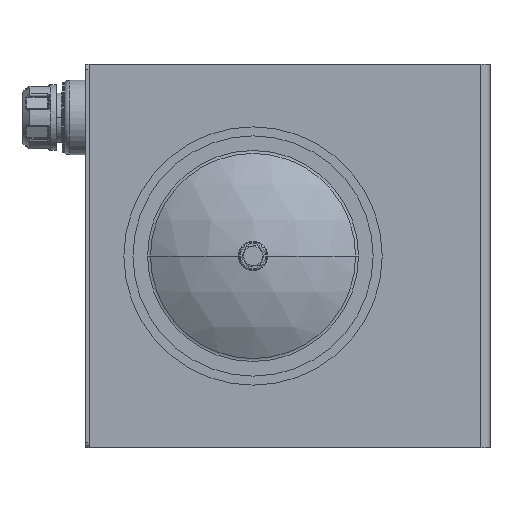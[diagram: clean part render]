
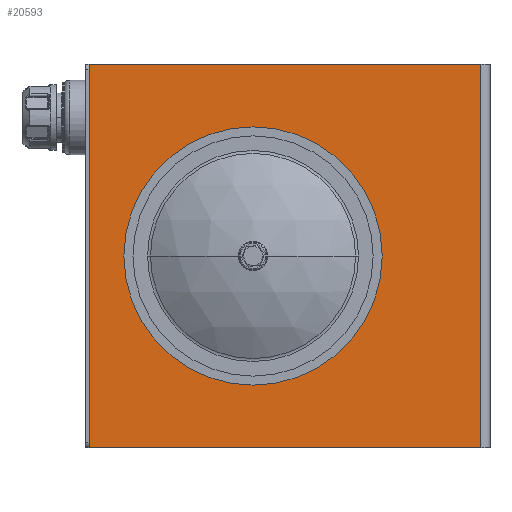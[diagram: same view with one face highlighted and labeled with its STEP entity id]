
A CAD part, left-side view. The second image highlights one B-rep face of the part: STEP entity #20593.
In plain terms, the highlighted planar face has unit normal (-1, 0, 0).
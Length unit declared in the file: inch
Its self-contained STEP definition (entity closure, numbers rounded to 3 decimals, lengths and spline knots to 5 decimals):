
#297 = ORIENTED_EDGE ( 'NONE', *, *, #3054, .T. ) ;
#559 = VECTOR ( 'NONE', #6290, 39.37008 ) ;
#743 = CARTESIAN_POINT ( 'NONE',  ( -14.32122, -14.85503, -7.03273 ) ) ;
#747 = EDGE_CURVE ( 'NONE', #22684, #8864, #5743, .T. ) ;
#887 = CARTESIAN_POINT ( 'NONE',  ( -14.32122, 3.52817, -7.03273 ) ) ;
#1481 = DIRECTION ( 'NONE',  ( 1., 0., 0. ) ) ;
#1507 = ORIENTED_EDGE ( 'NONE', *, *, #14768, .T. ) ;
#2237 = VERTEX_POINT ( 'NONE', #6201 ) ;
#2655 = CARTESIAN_POINT ( 'NONE',  ( -14.32122, -4.16183, 1.96727 ) ) ;
#2923 = CIRCLE ( 'NONE', #4009, 5. ) ;
#3054 = EDGE_CURVE ( 'NONE', #8864, #9242, #17325, .T. ) ;
#3501 = VERTEX_POINT ( 'NONE', #9970 ) ;
#3803 = EDGE_CURVE ( 'NONE', #3501, #2237, #4512, .T. ) ;
#4009 = AXIS2_PLACEMENT_3D ( 'NONE', #2655, #16027, #4637 ) ;
#4512 = CIRCLE ( 'NONE', #5247, 5. ) ;
#4637 = DIRECTION ( 'NONE',  ( 0., 0., 1. ) ) ;
#4877 = CARTESIAN_POINT ( 'NONE',  ( -14.32122, 3.52817, 10.96727 ) ) ;
#5247 = AXIS2_PLACEMENT_3D ( 'NONE', #12141, #11673, #10448 ) ;
#5451 = CARTESIAN_POINT ( 'NONE',  ( -14.32122, -15.28433, -7.03273 ) ) ;
#5743 = LINE ( 'NONE', #6115, #559 ) ;
#6115 = CARTESIAN_POINT ( 'NONE',  ( -14.32122, -14.85503, -7.03273 ) ) ;
#6201 = CARTESIAN_POINT ( 'NONE',  ( -14.32122, -4.16183, -3.03273 ) ) ;
#6290 = DIRECTION ( 'NONE',  ( 0., 0., 1. ) ) ;
#6414 = FACE_OUTER_BOUND ( 'NONE', #21549, .T. ) ;
#7340 = ORIENTED_EDGE ( 'NONE', *, *, #16104, .T. ) ;
#7341 = VECTOR ( 'NONE', #22344, 39.37008 ) ;
#8529 = ORIENTED_EDGE ( 'NONE', *, *, #3803, .F. ) ;
#8673 = CARTESIAN_POINT ( 'NONE',  ( -14.32122, 3.52817, -7.03273 ) ) ;
#8864 = VERTEX_POINT ( 'NONE', #15097 ) ;
#9242 = VERTEX_POINT ( 'NONE', #4877 ) ;
#9970 = CARTESIAN_POINT ( 'NONE',  ( -14.32122, -4.16183, 6.96727 ) ) ;
#10296 = ORIENTED_EDGE ( 'NONE', *, *, #23870, .F. ) ;
#10448 = DIRECTION ( 'NONE',  ( 0., 0., 1. ) ) ;
#10916 = AXIS2_PLACEMENT_3D ( 'NONE', #14788, #1481, #14856 ) ;
#11494 = FACE_BOUND ( 'NONE', #14626, .T. ) ;
#11673 = DIRECTION ( 'NONE',  ( -1., 0., 0. ) ) ;
#12062 = ORIENTED_EDGE ( 'NONE', *, *, #747, .T. ) ;
#12141 = CARTESIAN_POINT ( 'NONE',  ( -14.32122, -4.16183, 1.96727 ) ) ;
#13007 = PLANE ( 'NONE',  #10916 ) ;
#14235 = DIRECTION ( 'NONE',  ( 0., 0., -1. ) ) ;
#14626 = EDGE_LOOP ( 'NONE', ( #8529, #10296 ) ) ;
#14768 = EDGE_CURVE ( 'NONE', #9242, #23962, #18585, .T. ) ;
#14788 = CARTESIAN_POINT ( 'NONE',  ( -14.32122, 3.52817, -7.03273 ) ) ;
#14856 = DIRECTION ( 'NONE',  ( 0., 0., -1. ) ) ;
#15097 = CARTESIAN_POINT ( 'NONE',  ( -14.32122, -14.85503, 10.96727 ) ) ;
#16027 = DIRECTION ( 'NONE',  ( -1., 0., 0. ) ) ;
#16104 = EDGE_CURVE ( 'NONE', #23962, #22684, #24179, .T. ) ;
#17325 = LINE ( 'NONE', #22142, #7341 ) ;
#18014 = VECTOR ( 'NONE', #14235, 39.37008 ) ;
#18585 = LINE ( 'NONE', #8673, #18014 ) ;
#20593 = ADVANCED_FACE ( 'NONE', ( #11494, #6414 ), #13007, .F. ) ;
#21549 = EDGE_LOOP ( 'NONE', ( #12062, #297, #1507, #7340 ) ) ;
#22142 = CARTESIAN_POINT ( 'NONE',  ( -14.32122, -15.28433, 10.96727 ) ) ;
#22318 = DIRECTION ( 'NONE',  ( 0., -1., 0. ) ) ;
#22344 = DIRECTION ( 'NONE',  ( 0., 1., 0. ) ) ;
#22684 = VERTEX_POINT ( 'NONE', #743 ) ;
#23637 = VECTOR ( 'NONE', #22318, 39.37008 ) ;
#23870 = EDGE_CURVE ( 'NONE', #2237, #3501, #2923, .T. ) ;
#23962 = VERTEX_POINT ( 'NONE', #887 ) ;
#24179 = LINE ( 'NONE', #5451, #23637 ) ;
